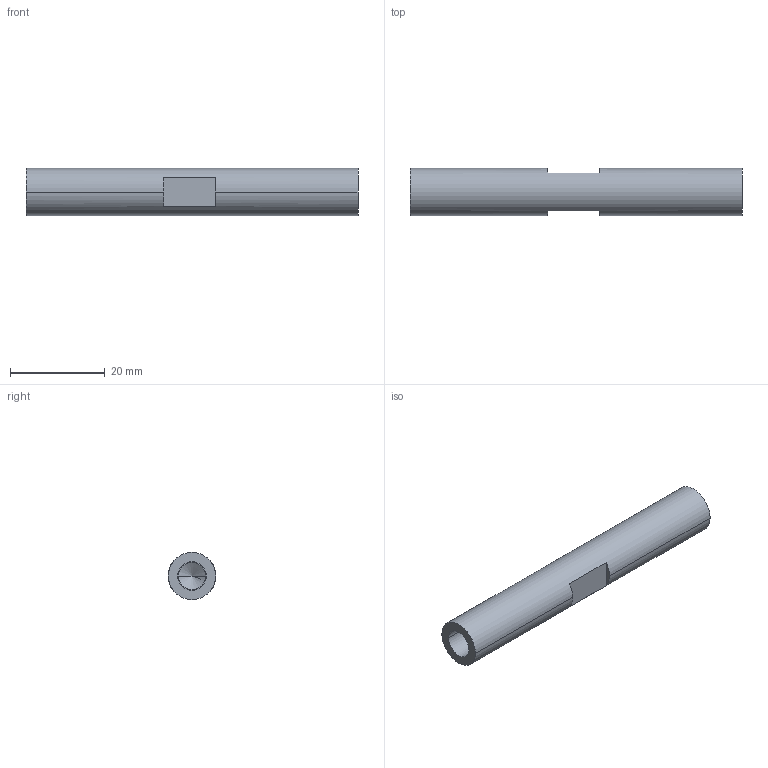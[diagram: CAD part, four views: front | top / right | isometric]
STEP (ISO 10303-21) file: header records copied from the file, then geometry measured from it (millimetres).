
FILE_DESCRIPTION (( 'STEP AP214' ), '1' );
FILE_NAME ('AWS_10x070N.STEP', '2020-10-29T19:47:29', ( '' ), ( '' ), 'SwSTEP 2.0', 'SolidWorks 2014', '' );
FILE_SCHEMA (( 'AUTOMOTIVE_DESIGN' ));
Length unit declared in the file: millimetre
Products named in the file (1): AWS_10x070N
Bounding box: 70 x 10 x 10 mm (x, y, z)
Volume: 4432.5 mm3; surface area: 3007 mm2
Topology: 1 solids, 1 shells, 24 faces, 56 edges, 34 vertices
Faces by surface type: cylinder 10, plane 10, cone 4
Entity records: 702 total; most frequent: DIRECTION 130, CARTESIAN_POINT 111, ORIENTED_EDGE 104, AXIS2_PLACEMENT_3D 53, EDGE_CURVE 52, VERTEX_POINT 34, CIRCLE 28, EDGE_LOOP 28
